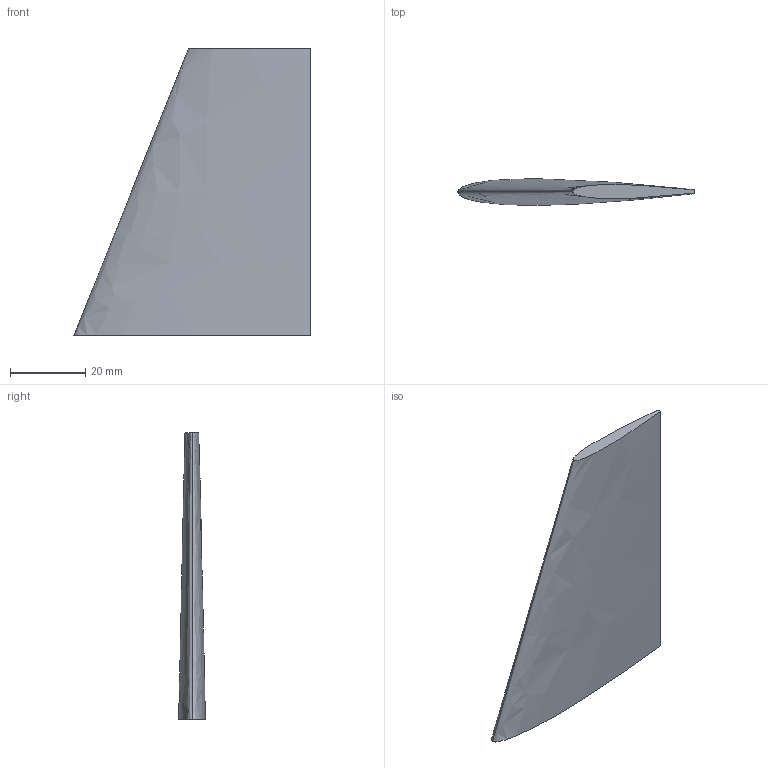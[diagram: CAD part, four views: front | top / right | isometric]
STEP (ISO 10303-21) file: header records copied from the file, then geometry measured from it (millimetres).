
FILE_DESCRIPTION(('SkyG Speed 90B - revision C6B-17 - 2026-10-13','FN-fin'),'2;1');
FILE_NAME('FN-fin_C6B-17','2026-10-13T21:54:46',('Author'),( 'Open CASCADE'),'Open CASCADE STEP processor 7.9','Open CASCADE 7.9' ,'Unknown');
FILE_SCHEMA(('AUTOMOTIVE_DESIGN { 1 0 10303 214 1 1 1 1 }'));
Length unit declared in the file: millimetre
Products named in the file (1): FN-fin C6B-17
Bounding box: 62.6 x 7.11 x 76.1 mm (x, y, z)
Volume: 14481.4 mm3; surface area: 8276.5 mm2
Topology: 1 solids, 1 shells, 12 faces, 31 edges, 22 vertices
Faces by surface type: plane 5, cylinder 5, bspline 2
Full cylindrical faces by diameter (mm): 1.9 x1
Entity records: 1772 total; most frequent: CARTESIAN_POINT 1209, DIRECTION 81, ORIENTED_EDGE 62, PCURVE 62, DEFINITIONAL_REPRESENTATION 62, B_SPLINE_CURVE_WITH_KNOTS 45, EDGE_CURVE 31, SURFACE_CURVE 30
